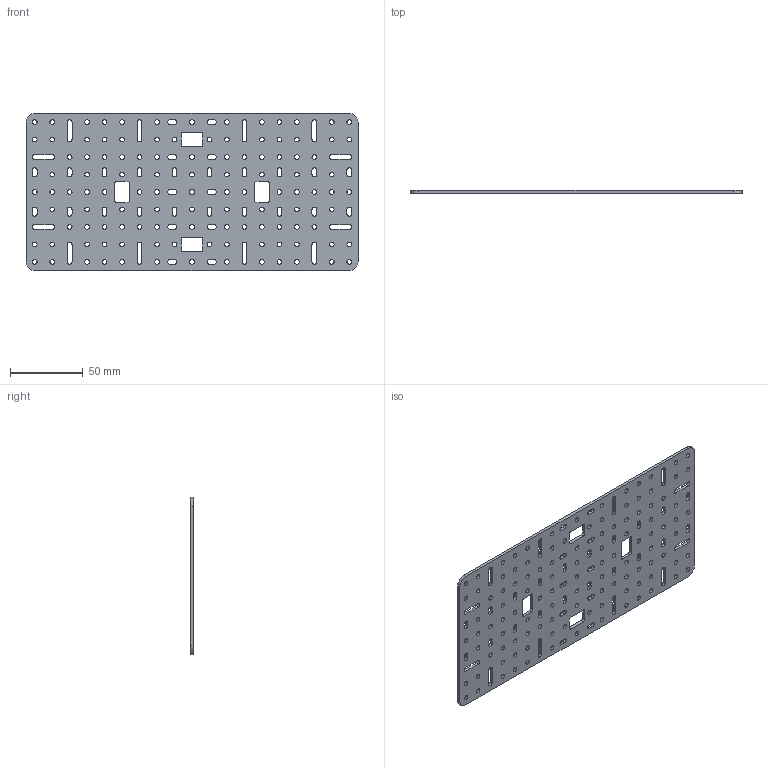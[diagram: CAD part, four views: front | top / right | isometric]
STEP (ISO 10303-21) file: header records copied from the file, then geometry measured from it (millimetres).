
FILE_DESCRIPTION (( 'STEP AP214' ), '1' );
FILE_NAME ('9x19 Plate.STEP', '2024-06-13T10:21:13', ( '' ), ( '' ), 'SwSTEP 2.0', 'SolidWorks 2023', '' );
FILE_SCHEMA (( 'AUTOMOTIVE_DESIGN' ));
Length unit declared in the file: millimetre
Products named in the file (1): 9x19 Plate
Bounding box: 228 x 2 x 108 mm (x, y, z)
Volume: 44013.5 mm3; surface area: 49767.1 mm2
Topology: 1 solids, 1 shells, 450 faces, 1344 edges, 896 vertices
Faces by surface type: cylinder 344, plane 106
Entity records: 16155 total; most frequent: DIRECTION 2934, CARTESIAN_POINT 2691, ORIENTED_EDGE 2688, EDGE_CURVE 1344, AXIS2_PLACEMENT_3D 1139, VERTEX_POINT 896, EDGE_LOOP 768, CIRCLE 688
